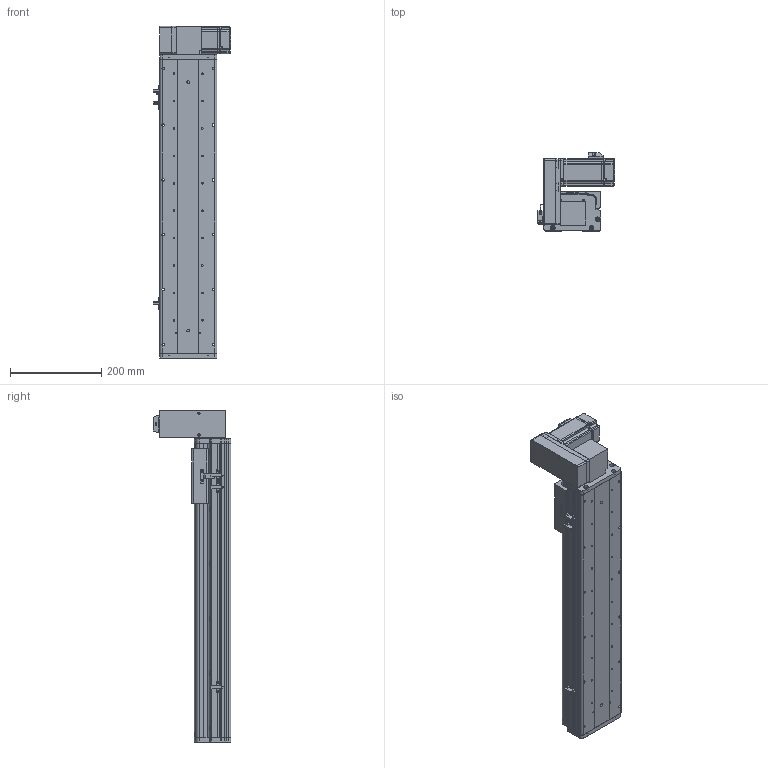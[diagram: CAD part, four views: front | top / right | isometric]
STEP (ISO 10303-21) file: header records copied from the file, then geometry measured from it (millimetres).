
FILE_DESCRIPTION (( 'STEP AP214' ), '1' );
FILE_NAME ('KSD125B-S450-MRU-CM.STEP', '2017-10-21T07:25:30', ( '微软用户' ), ( '微软中国' ), 'SwSTEP 2.0', 'SolidWorks 2014', '' );
FILE_SCHEMA (( 'AUTOMOTIVE_DESIGN' ));
Length unit declared in the file: millimetre
Products named in the file (17): KSD125模组同步带-防撞垫2; 覜茼え68遵圉猾敕; U倰嫖萇假蚾璃; U倰嫖萇EEㄜSX672; KSD125模组同步带-防撞垫1; 100宽马达安装板同步带右; 前端板-125宽模组同步带; 125模组同步带-尾端板1; KSD125模组同步带-滑动座1; KSD125B-S450-MRU-CM; 悵誘欶奻狟殏; MHMD042G1CA_2_03; HTPA30S3M150_A_H6_a佪裝蚚; HTPA30S3M150_A_H6_a萇儂蚚; 100宽马达安装板连板上下折丝杆同步带; KSD125模组450行程同步带-防尘盖; 125模组450行程同步带-底板
Assembly tree (20 placements, depth 2):
  KSD125B-S450-MRU-CM
    KSD125模组同步带-滑动座1
    125模组同步带-尾端板1
    前端板-125宽模组同步带
    100宽马达安装板同步带右
    KSD125模组同步带-防撞垫1
    U倰嫖萇EEㄜSX672  x3
    U倰嫖萇假蚾璃  x3
    覜茼え68遵圉猾敕
    KSD125模组同步带-防撞垫2
    125模组450行程同步带-底板
    KSD125模组450行程同步带-防尘盖
    100宽马达安装板连板上下折丝杆同步带
    HTPA30S3M150_A_H6_a萇儂蚚
    HTPA30S3M150_A_H6_a佪裝蚚
    MHMD042G1CA_2_03
    悵誘欶奻狟殏
Bounding box: 168.7 x 170.5 x 727 mm (x, y, z)
Volume: 2457352.8 mm3; surface area: 858158.9 mm2
Topology: 19 solids, 22 shells, 2235 faces, 6469 edges, 4274 vertices
Faces by surface type: cylinder 1388, plane 720, cone 105, bspline 22
Entity records: 79151 total; most frequent: CARTESIAN_POINT 15663, DIRECTION 12314, ORIENTED_EDGE 11458, EDGE_CURVE 5807, AXIS2_PLACEMENT_3D 4749, VERTEX_POINT 3866, VECTOR 2816, LINE 2816
